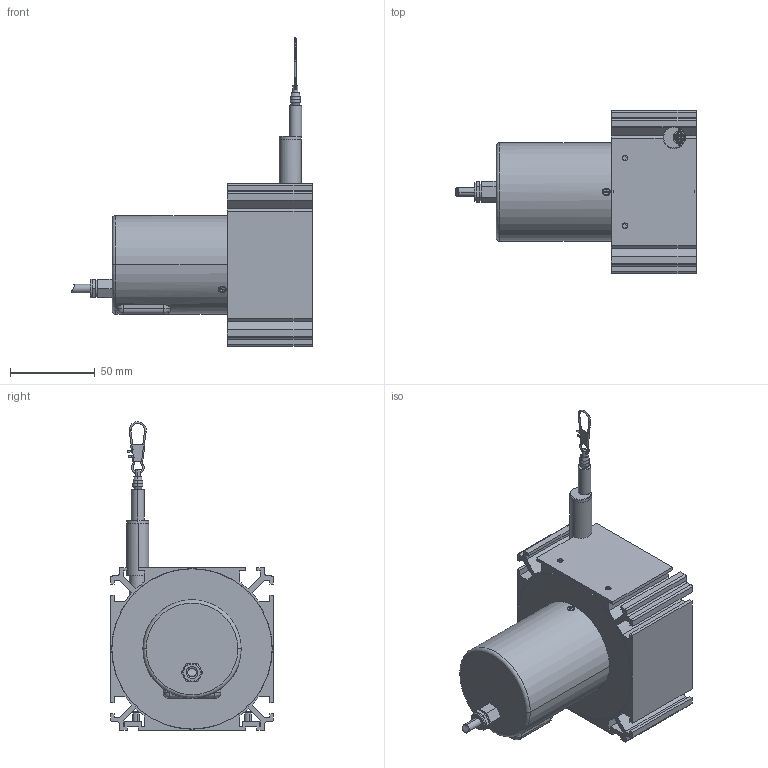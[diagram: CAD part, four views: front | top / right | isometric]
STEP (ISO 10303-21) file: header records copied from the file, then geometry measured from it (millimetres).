
FILE_DESCRIPTION((''),'2;1');
FILE_NAME('','2007-03-21T',(''),(''),'PRO/ENGINEER BY PARAMETRIC TECHNOLOGY CORPORATION, 2003250','PRO/ENGINEER BY PARAMETRIC TECHNOLOGY CORPORATION, 2003250','');
FILE_SCHEMA(('CONFIG_CONTROL_DESIGN'));
Length unit declared in the file: millimetre
Bounding box: 141.74 x 96 x 181.99 mm (x, y, z)
Volume: 223289.5 mm3; surface area: 110992.2 mm2
Topology: 1 solids, 8 shells, 606 faces, 1544 edges, 976 vertices
Faces by surface type: plane 276, cylinder 199, cone 74, torus 40, bspline 14, sphere 2, extrusion 1
Entity records: 19451 total; most frequent: CARTESIAN_POINT 4637, DIRECTION 3142, ORIENTED_EDGE 3040, EDGE_CURVE 1520, AXIS2_PLACEMENT_3D 1143, VERTEX_POINT 976, VECTOR 856, LINE 855
